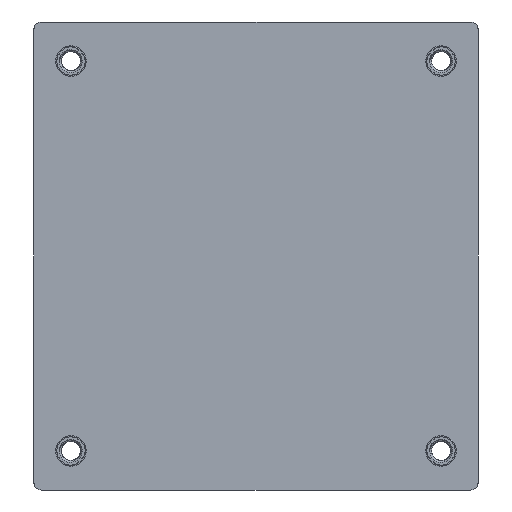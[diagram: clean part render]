
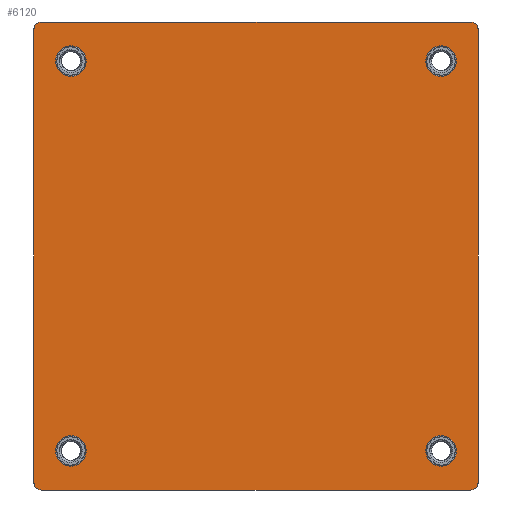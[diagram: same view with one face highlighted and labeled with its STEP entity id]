
A CAD part, front view. The second image highlights one B-rep face of the part: STEP entity #6120.
In plain terms, the highlighted planar face has unit normal (0, -1, 0).
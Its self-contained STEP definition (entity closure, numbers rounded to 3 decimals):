
#38 = CARTESIAN_POINT ( 'NONE',  ( 24.13, -1.6, 27.4 ) ) ;
#81 = CIRCLE ( 'NONE', #17501, 2. ) ;
#92 = FACE_BOUND ( 'NONE', #11689, .T. ) ;
#213 = DIRECTION ( 'NONE',  ( 0., -1., 0. ) ) ;
#324 = VERTEX_POINT ( 'NONE', #23984 ) ;
#588 = VECTOR ( 'NONE', #12408, 1000. ) ;
#1017 = VERTEX_POINT ( 'NONE', #23673 ) ;
#1162 = CARTESIAN_POINT ( 'NONE',  ( -27.95, -1.6, -29.5 ) ) ;
#1419 = VERTEX_POINT ( 'NONE', #13482 ) ;
#1723 = CARTESIAN_POINT ( 'NONE',  ( -24.13, -1.6, 27.4 ) ) ;
#1924 = ORIENTED_EDGE ( 'NONE', *, *, #23565, .T. ) ;
#2143 = CIRCLE ( 'NONE', #14178, 2. ) ;
#2145 = DIRECTION ( 'NONE',  ( 0., 0., 1. ) ) ;
#2456 = EDGE_CURVE ( 'NONE', #9673, #2616, #12155, .T. ) ;
#2599 = DIRECTION ( 'NONE',  ( 0., 1., 0. ) ) ;
#2616 = VERTEX_POINT ( 'NONE', #6033 ) ;
#2806 = CARTESIAN_POINT ( 'NONE',  ( 24.13, -1.6, 25.4 ) ) ;
#3349 = EDGE_CURVE ( 'NONE', #324, #2616, #10814, .T. ) ;
#3536 = CARTESIAN_POINT ( 'NONE',  ( 24.13, -1.6, -23.4 ) ) ;
#3913 = ORIENTED_EDGE ( 'NONE', *, *, #17753, .F. ) ;
#4235 = DIRECTION ( 'NONE',  ( 0., 0., 1. ) ) ;
#4282 = CARTESIAN_POINT ( 'NONE',  ( 24.13, -1.6, -25.4 ) ) ;
#4422 = DIRECTION ( 'NONE',  ( -1., 0., 0. ) ) ;
#4676 = LINE ( 'NONE', #18061, #11634 ) ;
#5237 = EDGE_LOOP ( 'NONE', ( #18349 ) ) ;
#5557 = CIRCLE ( 'NONE', #21754, 2. ) ;
#5809 = DIRECTION ( 'NONE',  ( 0., 0., 1. ) ) ;
#5925 = CARTESIAN_POINT ( 'NONE',  ( 27.95, -1.6, 29.5 ) ) ;
#5933 = DIRECTION ( 'NONE',  ( 0., 1., 0. ) ) ;
#6033 = CARTESIAN_POINT ( 'NONE',  ( -28.95, -1.6, 29.5 ) ) ;
#6053 = FACE_BOUND ( 'NONE', #5237, .T. ) ;
#6090 = EDGE_CURVE ( 'NONE', #9379, #9379, #5557, .T. ) ;
#6120 = ADVANCED_FACE ( 'NONE', ( #92, #6053, #15670, #12020, #15803 ), #14237, .F. ) ;
#6203 = CARTESIAN_POINT ( 'NONE',  ( -27.95, -1.6, 29.5 ) ) ;
#6260 = VERTEX_POINT ( 'NONE', #1723 ) ;
#6357 = ORIENTED_EDGE ( 'NONE', *, *, #14144, .F. ) ;
#6494 = CARTESIAN_POINT ( 'NONE',  ( -24.13, -1.6, 25.4 ) ) ;
#7229 = EDGE_CURVE ( 'NONE', #1017, #1419, #14548, .T. ) ;
#7616 = AXIS2_PLACEMENT_3D ( 'NONE', #21787, #13976, #4235 ) ;
#7889 = EDGE_CURVE ( 'NONE', #1017, #25505, #4676, .T. ) ;
#8024 = DIRECTION ( 'NONE',  ( 0., 1., 0. ) ) ;
#8251 = DIRECTION ( 'NONE',  ( 0., -1., 0. ) ) ;
#8403 = DIRECTION ( 'NONE',  ( 0., 0., 1. ) ) ;
#8825 = DIRECTION ( 'NONE',  ( 0., 0., 1. ) ) ;
#9033 = DIRECTION ( 'NONE',  ( 0., 0., -1. ) ) ;
#9045 = CARTESIAN_POINT ( 'NONE',  ( 27.95, -1.6, 30.5 ) ) ;
#9379 = VERTEX_POINT ( 'NONE', #25248 ) ;
#9673 = VERTEX_POINT ( 'NONE', #11891 ) ;
#10814 = CIRCLE ( 'NONE', #16687, 1. ) ;
#11045 = EDGE_CURVE ( 'NONE', #25005, #25005, #23599, .T. ) ;
#11634 = VECTOR ( 'NONE', #4422, 1000. ) ;
#11689 = EDGE_LOOP ( 'NONE', ( #25410 ) ) ;
#11709 = ORIENTED_EDGE ( 'NONE', *, *, #16897, .T. ) ;
#11841 = ORIENTED_EDGE ( 'NONE', *, *, #3349, .T. ) ;
#11891 = CARTESIAN_POINT ( 'NONE',  ( -28.95, -1.6, -29.5 ) ) ;
#12020 = FACE_BOUND ( 'NONE', #22681, .T. ) ;
#12155 = LINE ( 'NONE', #20229, #588 ) ;
#12170 = DIRECTION ( 'NONE',  ( 0., 0., 1. ) ) ;
#12408 = DIRECTION ( 'NONE',  ( 0., 0., 1. ) ) ;
#12416 = DIRECTION ( 'NONE',  ( 0., 1., 0. ) ) ;
#13482 = CARTESIAN_POINT ( 'NONE',  ( 28.95, -1.6, -29.5 ) ) ;
#13976 = DIRECTION ( 'NONE',  ( 0., 1., 0. ) ) ;
#14144 = EDGE_CURVE ( 'NONE', #25516, #1419, #24651, .T. ) ;
#14178 = AXIS2_PLACEMENT_3D ( 'NONE', #2806, #12416, #22695 ) ;
#14237 = PLANE ( 'NONE',  #7616 ) ;
#14548 = CIRCLE ( 'NONE', #22018, 1. ) ;
#15186 = CARTESIAN_POINT ( 'NONE',  ( -27.95, -1.6, -30.5 ) ) ;
#15670 = FACE_BOUND ( 'NONE', #20390, .T. ) ;
#15803 = FACE_OUTER_BOUND ( 'NONE', #23908, .T. ) ;
#16198 = ORIENTED_EDGE ( 'NONE', *, *, #17854, .T. ) ;
#16626 = DIRECTION ( 'NONE',  ( 0., 0., 1. ) ) ;
#16653 = CIRCLE ( 'NONE', #23736, 1. ) ;
#16687 = AXIS2_PLACEMENT_3D ( 'NONE', #6203, #20502, #12170 ) ;
#16702 = CARTESIAN_POINT ( 'NONE',  ( 28.95, -1.6, -30.5 ) ) ;
#16763 = CARTESIAN_POINT ( 'NONE',  ( -28.95, -1.6, 30.5 ) ) ;
#16897 = EDGE_CURVE ( 'NONE', #25516, #19011, #16653, .T. ) ;
#17415 = EDGE_CURVE ( 'NONE', #6260, #6260, #81, .T. ) ;
#17501 = AXIS2_PLACEMENT_3D ( 'NONE', #6494, #2599, #8825 ) ;
#17753 = EDGE_CURVE ( 'NONE', #324, #19011, #19215, .T. ) ;
#17854 = EDGE_CURVE ( 'NONE', #19906, #19906, #2143, .T. ) ;
#18061 = CARTESIAN_POINT ( 'NONE',  ( -28.95, -1.6, -30.5 ) ) ;
#18349 = ORIENTED_EDGE ( 'NONE', *, *, #6090, .T. ) ;
#19011 = VERTEX_POINT ( 'NONE', #9045 ) ;
#19099 = CIRCLE ( 'NONE', #21610, 1. ) ;
#19215 = LINE ( 'NONE', #16763, #22915 ) ;
#19906 = VERTEX_POINT ( 'NONE', #38 ) ;
#19955 = DIRECTION ( 'NONE',  ( 0., 0., 1. ) ) ;
#20229 = CARTESIAN_POINT ( 'NONE',  ( -28.95, -1.6, -30.5 ) ) ;
#20390 = EDGE_LOOP ( 'NONE', ( #16198 ) ) ;
#20402 = ORIENTED_EDGE ( 'NONE', *, *, #7229, .T. ) ;
#20502 = DIRECTION ( 'NONE',  ( 0., -1., 0. ) ) ;
#21175 = CARTESIAN_POINT ( 'NONE',  ( 28.95, -1.6, 29.5 ) ) ;
#21332 = VECTOR ( 'NONE', #9033, 1000. ) ;
#21432 = ORIENTED_EDGE ( 'NONE', *, *, #17415, .T. ) ;
#21610 = AXIS2_PLACEMENT_3D ( 'NONE', #1162, #22614, #16626 ) ;
#21754 = AXIS2_PLACEMENT_3D ( 'NONE', #23748, #5933, #5809 ) ;
#21787 = CARTESIAN_POINT ( 'NONE',  ( -28.95, -1.6, 30.5 ) ) ;
#22018 = AXIS2_PLACEMENT_3D ( 'NONE', #24253, #213, #2145 ) ;
#22614 = DIRECTION ( 'NONE',  ( 0., -1., 0. ) ) ;
#22681 = EDGE_LOOP ( 'NONE', ( #21432 ) ) ;
#22695 = DIRECTION ( 'NONE',  ( 0., 0., 1. ) ) ;
#22762 = AXIS2_PLACEMENT_3D ( 'NONE', #4282, #8024, #8403 ) ;
#22915 = VECTOR ( 'NONE', #25088, 1000. ) ;
#23305 = ORIENTED_EDGE ( 'NONE', *, *, #7889, .F. ) ;
#23565 = EDGE_CURVE ( 'NONE', #9673, #25505, #19099, .T. ) ;
#23599 = CIRCLE ( 'NONE', #22762, 2. ) ;
#23673 = CARTESIAN_POINT ( 'NONE',  ( 27.95, -1.6, -30.5 ) ) ;
#23736 = AXIS2_PLACEMENT_3D ( 'NONE', #5925, #8251, #19955 ) ;
#23748 = CARTESIAN_POINT ( 'NONE',  ( -24.13, -1.6, -25.4 ) ) ;
#23908 = EDGE_LOOP ( 'NONE', ( #25025, #1924, #23305, #20402, #6357, #11709, #3913, #11841 ) ) ;
#23984 = CARTESIAN_POINT ( 'NONE',  ( -27.95, -1.6, 30.5 ) ) ;
#24253 = CARTESIAN_POINT ( 'NONE',  ( 27.95, -1.6, -29.5 ) ) ;
#24651 = LINE ( 'NONE', #16702, #21332 ) ;
#25005 = VERTEX_POINT ( 'NONE', #3536 ) ;
#25025 = ORIENTED_EDGE ( 'NONE', *, *, #2456, .F. ) ;
#25088 = DIRECTION ( 'NONE',  ( 1., 0., 0. ) ) ;
#25248 = CARTESIAN_POINT ( 'NONE',  ( -24.13, -1.6, -23.4 ) ) ;
#25410 = ORIENTED_EDGE ( 'NONE', *, *, #11045, .T. ) ;
#25505 = VERTEX_POINT ( 'NONE', #15186 ) ;
#25516 = VERTEX_POINT ( 'NONE', #21175 ) ;
